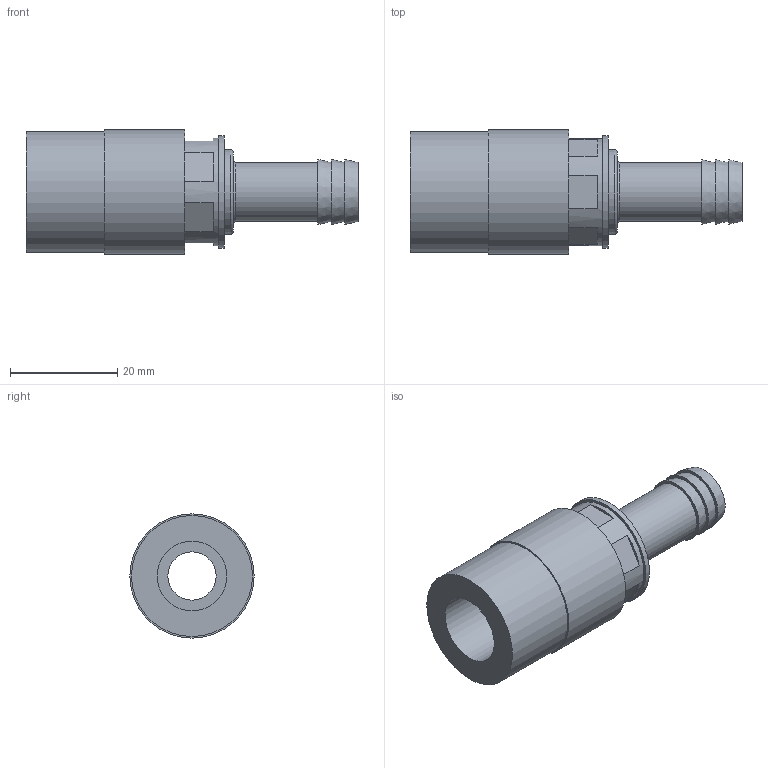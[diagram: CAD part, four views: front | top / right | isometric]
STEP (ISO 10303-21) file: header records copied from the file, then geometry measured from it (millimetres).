
FILE_DESCRIPTION(/* description */ ('STEP AP214'),/* implementation_level */ '2;1');
FILE_NAME(/* name */ 'SK111',/* time_stamp */ '2024-12-19T09:35:19+01:00',/* author */ ('License CC BY-ND 4.0'),/* organization */ ('CADENAS'),/* preprocessor_version */ 'ST-DEVELOPER v19.3',/* originating_system */ 'PARTsolutions',/* authorisation */ ' ');
FILE_SCHEMA (('AUTOMOTIVE_DESIGN {1 0 10303 214 3 1 1}'));
Length unit declared in the file: millimetre
Products named in the file (1): SK111
Bounding box: 62 x 23.2 x 23.2 mm (x, y, z)
Volume: 11434.6 mm3; surface area: 6428.3 mm2
Topology: 1 solids, 1 shells, 36 faces, 73 edges, 48 vertices
Faces by surface type: plane 23, cylinder 8, cone 3, torus 2
Full cylindrical faces by diameter (mm): 9 x1, 10.98 x1, 13 x1, 15.86 x1, 20 x1, 21 x1, 22.6 x1, 23.2 x1
Entity records: 916 total; most frequent: DIRECTION 168, CARTESIAN_POINT 143, ORIENTED_EDGE 118, AXIS2_PLACEMENT_3D 72, EDGE_LOOP 60, FACE_BOUND 60, EDGE_CURVE 59, VERTEX_POINT 47
